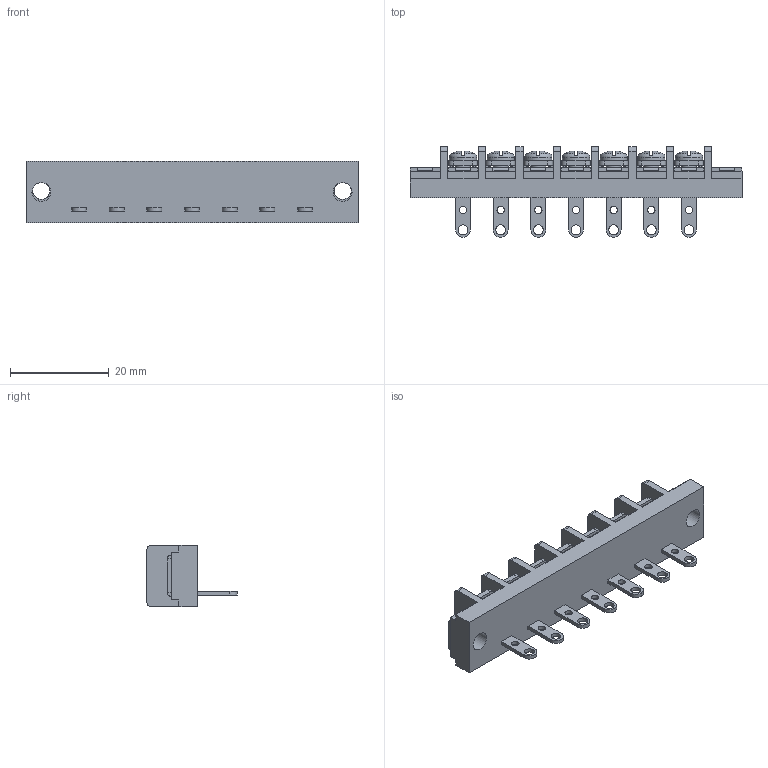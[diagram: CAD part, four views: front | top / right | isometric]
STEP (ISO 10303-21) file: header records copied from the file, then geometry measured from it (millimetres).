
FILE_DESCRIPTION(/* description */ ('Alibre Inc.'),/* implementation_level */ '2;1');
FILE_NAME(/* name */ 'export0',/* time_stamp */ '2015-10-26T18:05:12+09:00',/* author */ (''),/* organization */ (''),/* preprocessor_version */ 'ST-DEVELOPER v14',/* originating_system */ 'Alibre',/* authorisation */ '');
FILE_SCHEMA (('CONFIG_CONTROL_DESIGN'));
Length unit declared in the file: centimetre
Products named in the file (1): ID_1
Bounding box: 67.16 x 18.3 x 12.5 mm (x, y, z)
Volume: 5771.4 mm3; surface area: 5466.5 mm2
Topology: 1 solids, 17 shells, 1136 faces, 3089 edges, 2037 vertices
Faces by surface type: plane 868, cylinder 108, bspline 104, cone 28, torus 14, sphere 14
Full cylindrical faces by diameter (mm): 1.5 x7, 2 x7, 3 x7, 3.5 x2, 3.8 x2, 5.5 x7
Entity records: 34010 total; most frequent: CARTESIAN_POINT 7576, ORIENTED_EDGE 6022, DIRECTION 4139, EDGE_CURVE 3011, VECTOR 2156, LINE 2156, VERTEX_POINT 2005, AXIS2_PLACEMENT_3D 1383
